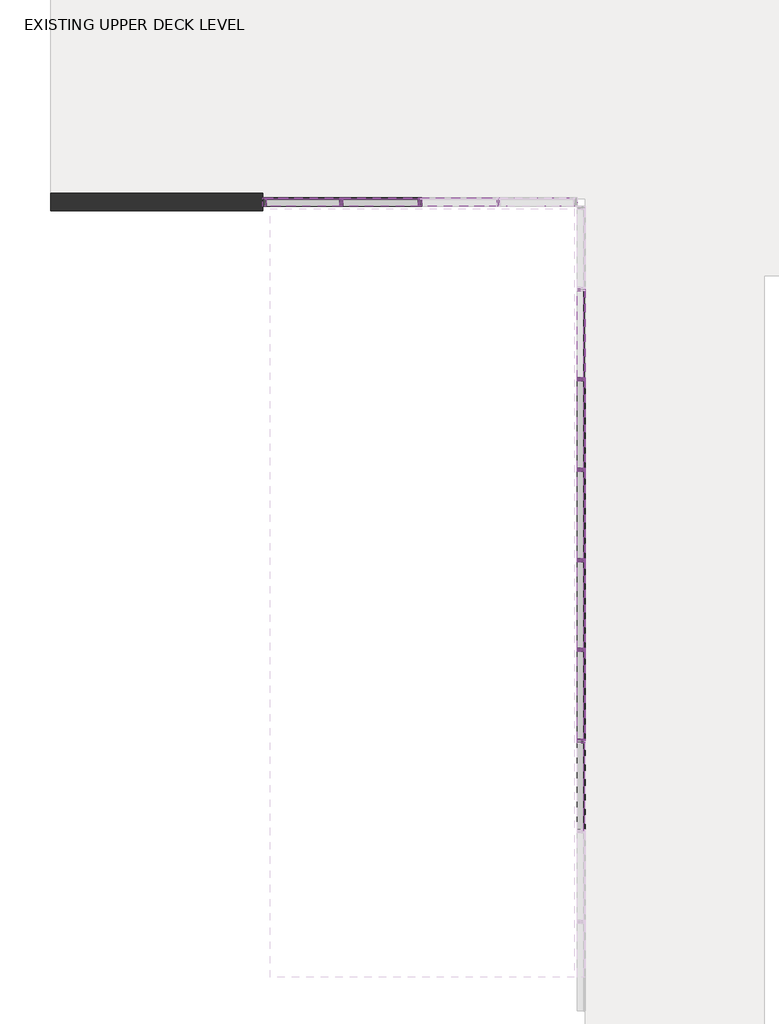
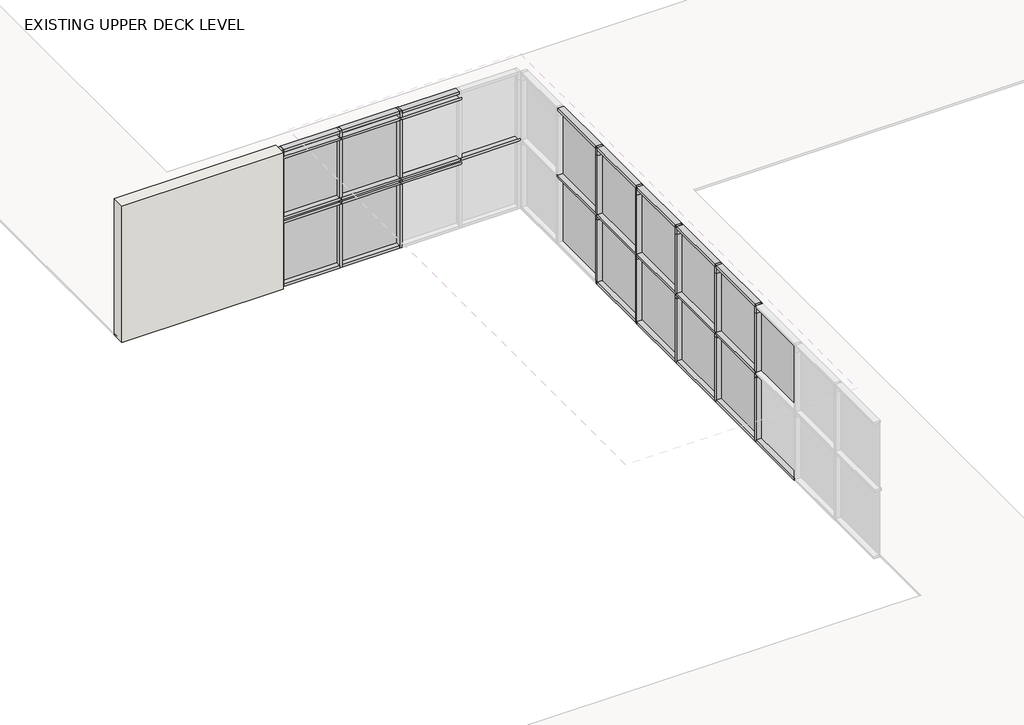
# One storey, part 2 of 3: 62 members, 19 plates, 1 wall.
"""IFC4 building model written with IfcOpenShell, lengths in millimetres."""

from ifc_helpers import new_model, si_unit, frame, origin, place, context, project, spatial, polyline, outline, extrude, transform, mapped, element, save
from components import rectangular_mullion_3bbbedf9, rectangular_mullion_5c729091, rectangular_mullion_7315190d, rectangular_mullion_10d2db1b, rectangular_mullion_fbd2204e, rectangular_mullion_58844fd5, rectangular_mullion_fd3b6dd5, rectangular_mullion_40eadc30, rectangular_mullion_0e282d8c, rectangular_mullion_f8c7f91d, rectangular_mullion_4961243a, rectangular_mullion_386c02e4, rectangular_mullion_4e3339b7, rectangular_mullion_32e07c27, rectangular_mullion_10cdd00b, rectangular_mullion_634541af, rectangular_mullion_af807cf6, rectangular_mullion_93630891, rectangular_mullion_1a987de4, rectangular_mullion_b99a3797, rectangular_mullion_2aeec064, rectangular_mullion_042afdd0, rectangular_mullion_1bf71cb2, rectangular_mullion_55faee5e, rectangular_mullion_3d1d8518, rectangular_mullion_b1836c23, rectangular_mullion_f3aea93a, plate_297d9759, plate_a72b84bc, plate_9dcbc979, plate_0ceb05f0, plate_08a7df39, plate_14ea7fdc, plate_30067b60, plate_68830c21, plate_a2bcb05a, plate_dc7cb12e, plate_15c53d00, plate_fc9a9919, plate_e4f452af, plate_426640ee

model = new_model("IFC4")

# Units and contexts
model_context = context("Model", 3, world=origin())
ifc_project = project(units=[si_unit("LENGTHUNIT", "METRE", prefix="MILLI")], contexts=[model_context])

# Site, building, storey
site = spatial("IfcSite", under=ifc_project)
building = spatial("IfcBuilding", under=site)
storey = spatial("IfcBuildingStorey", under=building, Name="EXISTING UPPER DECK LEVEL", Elevation=294830.5)

# Members
placement = place(None, origin())
rectangular_mullion_shape = rectangular_mullion_3bbbedf9(model_context)
element("IfcMember", 1, ObjectType="Rectangular Mullion : Kawneer-TRIFAB_VG_450_BACK_SB_Vertical", at=placement, inside=storey, context=model_context, shape_type="MappedRepresentation", body=[
    mapped(rectangular_mullion_shape, transform((26931.5406077, 211961.2591288, 294830.5), x_axis=(0.0, -1.0, 0.0), y_axis=(-1.0, 0.0, 0.0), z_axis=(0.0, 0.0, -1.0))),
])
element("IfcMember", 2, ObjectType="Rectangular Mullion : Kawneer-TRIFAB_VG_450_BACK_SB_Vertical", at=placement, inside=storey, context=model_context, shape_type="MappedRepresentation", body=[
    mapped(rectangular_mullion_shape, transform((26931.5406077, 213205.3032213, 294830.5), x_axis=(0.0, -1.0, 0.0), y_axis=(-1.0, 0.0, 0.0), z_axis=(0.0, 0.0, -1.0))),
])
element("IfcMember", 3, ObjectType="Rectangular Mullion : Kawneer-TRIFAB_VG_450_BACK_SB_Vertical", at=placement, inside=storey, context=model_context, shape_type="MappedRepresentation", body=[
    mapped(rectangular_mullion_shape, transform((26931.5406077, 214425.0591288, 294830.5), x_axis=(0.0, -1.0, 0.0), y_axis=(-1.0, 0.0, 0.0), z_axis=(0.0, 0.0, -1.0))),
])
element("IfcMember", 4, ObjectType="Rectangular Mullion : Kawneer-TRIFAB_VG_450_BACK_SB_Vertical", at=placement, inside=storey, context=model_context, shape_type="MappedRepresentation", body=[
    mapped(rectangular_mullion_shape, transform((26931.5406077, 216888.8591288, 294830.5), x_axis=(0.0, -1.0, 0.0), y_axis=(-1.0, 0.0, 0.0), z_axis=(0.0, 0.0, -1.0))),
])
element("IfcMember", 5, ObjectType="Rectangular Mullion : Kawneer-TRIFAB_VG_450_BACK_SB_Vertical", at=placement, inside=storey, context=model_context, shape_type="MappedRepresentation", body=[
    mapped(rectangular_mullion_shape, transform((26931.5406077, 215656.9591288, 294830.5), x_axis=(0.0, -1.0, 0.0), y_axis=(-1.0, 0.0, 0.0), z_axis=(0.0, 0.0, -1.0))),
])
rectangular_mullion_2_shape = rectangular_mullion_5c729091(model_context)
element("IfcMember", 6, ObjectType="Rectangular Mullion : Kawneer-TRIFAB_VG_450_BACK_SB_Head", at=placement, inside=storey, context=model_context, shape_type="MappedRepresentation", body=[
    mapped(rectangular_mullion_2_shape, transform((26931.5406077, 216911.0841288, 297421.3), x_axis=(0.0, 0.0, 1.0), y_axis=(-1.0, 0.0, 0.0), z_axis=(0.0, -1.0, 0.0))),
])
element("IfcMember", 7, ObjectType="Rectangular Mullion : Kawneer-TRIFAB_VG_450_BACK_SB_Head", at=placement, inside=storey, context=model_context, shape_type="MappedRepresentation", body=[
    mapped(rectangular_mullion_2_shape, transform((26931.5406077, 214447.2841288, 297421.3), x_axis=(0.0, 0.0, 1.0), y_axis=(-1.0, 0.0, 0.0), z_axis=(0.0, -1.0, 0.0))),
])
element("IfcMember", 8, ObjectType="Rectangular Mullion : Kawneer-TRIFAB_VG_450_BACK_SB_Head", at=placement, inside=storey, context=model_context, shape_type="MappedRepresentation", body=[
    mapped(rectangular_mullion_2_shape, transform((26931.5406077, 215679.1841288, 297421.3), x_axis=(0.0, 0.0, 1.0), y_axis=(-1.0, 0.0, 0.0), z_axis=(0.0, -1.0, 0.0))),
])
rectangular_mullion_3_shape = rectangular_mullion_7315190d(model_context)
element("IfcMember", 9, ObjectType="Rectangular Mullion : Kawneer-TRIFAB_VG_450_BACK_SB_Sill", at=placement, inside=storey, context=model_context, shape_type="MappedRepresentation", body=[
    mapped(rectangular_mullion_3_shape, transform((26931.5406077, 211939.0341288, 294830.5), x_axis=(0.0, 0.0, -1.0), y_axis=(-1.0, 0.0, 0.0), z_axis=(0.0, 1.0, 0.0))),
])
element("IfcMember", 10, ObjectType="Rectangular Mullion : Kawneer-TRIFAB_VG_450_BACK_SB_Sill", at=placement, inside=storey, context=model_context, shape_type="MappedRepresentation", body=[
    mapped(rectangular_mullion_3_shape, transform((26931.5406077, 216866.6341288, 294830.5), x_axis=(0.0, 0.0, -1.0), y_axis=(-1.0, 0.0, 0.0), z_axis=(0.0, 1.0, 0.0))),
])
element("IfcMember", 11, ObjectType="Rectangular Mullion : Kawneer-TRIFAB_VG_450_BACK_SB_Sill", at=placement, inside=storey, context=model_context, shape_type="MappedRepresentation", body=[
    mapped(rectangular_mullion_3_shape, transform((26931.5406077, 215634.7341288, 294830.5), x_axis=(0.0, 0.0, -1.0), y_axis=(-1.0, 0.0, 0.0), z_axis=(0.0, 1.0, 0.0))),
])
rectangular_mullion_4_shape = rectangular_mullion_10d2db1b(model_context)
element("IfcMember", 12, ObjectType="Rectangular Mullion : Kawneer-TRIFAB_VG_450_BACK_SB_Vertical", at=placement, inside=storey, context=model_context, shape_type="MappedRepresentation", body=[
    mapped(rectangular_mullion_4_shape, transform((26931.5406077, 211961.2591288, 297268.9), x_axis=(0.0, -1.0, 0.0), y_axis=(-1.0, 0.0, 0.0), z_axis=(0.0, 0.0, -1.0))),
])
element("IfcMember", 13, ObjectType="Rectangular Mullion : Kawneer-TRIFAB_VG_450_BACK_SB_Vertical", at=placement, inside=storey, context=model_context, shape_type="MappedRepresentation", body=[
    mapped(rectangular_mullion_4_shape, transform((26931.5406077, 213205.3032213, 297268.9), x_axis=(0.0, -1.0, 0.0), y_axis=(-1.0, 0.0, 0.0), z_axis=(0.0, 0.0, -1.0))),
])
element("IfcMember", 14, ObjectType="Rectangular Mullion : Kawneer-TRIFAB_VG_450_BACK_SB_Vertical", at=placement, inside=storey, context=model_context, shape_type="MappedRepresentation", body=[
    mapped(rectangular_mullion_4_shape, transform((26931.5406077, 214425.0591288, 297268.9), x_axis=(0.0, -1.0, 0.0), y_axis=(-1.0, 0.0, 0.0), z_axis=(0.0, 0.0, -1.0))),
])
element("IfcMember", 15, ObjectType="Rectangular Mullion : Kawneer-TRIFAB_VG_450_BACK_SB_Vertical", at=placement, inside=storey, context=model_context, shape_type="MappedRepresentation", body=[
    mapped(rectangular_mullion_4_shape, transform((26931.5406077, 216888.8591288, 297268.9), x_axis=(0.0, -1.0, 0.0), y_axis=(-1.0, 0.0, 0.0), z_axis=(0.0, 0.0, -1.0))),
])
element("IfcMember", 16, ObjectType="Rectangular Mullion : Kawneer-TRIFAB_VG_450_BACK_SB_Vertical", at=placement, inside=storey, context=model_context, shape_type="MappedRepresentation", body=[
    mapped(rectangular_mullion_4_shape, transform((26931.5406077, 215656.9591288, 297268.9), x_axis=(0.0, -1.0, 0.0), y_axis=(-1.0, 0.0, 0.0), z_axis=(0.0, 0.0, -1.0))),
])
rectangular_mullion_5_shape = rectangular_mullion_fbd2204e(model_context)
element("IfcMember", 17, ObjectType="Rectangular Mullion : Kawneer-TRIFAB_VG_450_BACK_SB_Jamb R", at=placement, inside=storey, context=model_context, shape_type="MappedRepresentation", body=[
    mapped(rectangular_mullion_5_shape, transform((22551.5654546, 219346.65176, 294830.5), x_axis=(-1.0, 0.0, 0.0), y_axis=(0.0, 1.0, 0.0), z_axis=(0.0, 0.0, -1.0))),
])
rectangular_mullion_6_shape = rectangular_mullion_58844fd5(model_context)
element("IfcMember", 18, ObjectType="Rectangular Mullion : Kawneer-TRIFAB_VG_450_BACK_SB_Vertical", at=placement, inside=storey, context=model_context, shape_type="MappedRepresentation", body=[
    mapped(rectangular_mullion_6_shape, transform((24693.1342812, 219346.65176, 294830.5), x_axis=(-1.0, 0.0, 0.0), y_axis=(0.0, 1.0, 0.0), z_axis=(0.0, 0.0, -1.0))),
])
element("IfcMember", 19, ObjectType="Rectangular Mullion : Kawneer-TRIFAB_VG_450_BACK_SB_Vertical", at=placement, inside=storey, context=model_context, shape_type="MappedRepresentation", body=[
    mapped(rectangular_mullion_6_shape, transform((23622.3498679, 219346.65176, 294830.5), x_axis=(-1.0, 0.0, 0.0), y_axis=(0.0, 1.0, 0.0), z_axis=(0.0, 0.0, -1.0))),
])
rectangular_mullion_7_shape = rectangular_mullion_fd3b6dd5(model_context)
element("IfcMember", 20, ObjectType="Rectangular Mullion : Kawneer-TRIFAB_VG_450_BACK_SB_Vertical", at=placement, inside=storey, context=model_context, shape_type="MappedRepresentation", body=[
    mapped(rectangular_mullion_7_shape, transform((26931.5406077, 211961.2591288, 296049.7), x_axis=(0.0, -1.0, 0.0), y_axis=(-1.0, 0.0, 0.0), z_axis=(0.0, 0.0, -1.0))),
])
element("IfcMember", 21, ObjectType="Rectangular Mullion : Kawneer-TRIFAB_VG_450_BACK_SB_Vertical", at=placement, inside=storey, context=model_context, shape_type="MappedRepresentation", body=[
    mapped(rectangular_mullion_7_shape, transform((26931.5406077, 213205.3032213, 296049.7), x_axis=(0.0, -1.0, 0.0), y_axis=(-1.0, 0.0, 0.0), z_axis=(0.0, 0.0, -1.0))),
])
element("IfcMember", 22, ObjectType="Rectangular Mullion : Kawneer-TRIFAB_VG_450_BACK_SB_Vertical", at=placement, inside=storey, context=model_context, shape_type="MappedRepresentation", body=[
    mapped(rectangular_mullion_7_shape, transform((26931.5406077, 214425.0591288, 296049.7), x_axis=(0.0, -1.0, 0.0), y_axis=(-1.0, 0.0, 0.0), z_axis=(0.0, 0.0, -1.0))),
])
element("IfcMember", 23, ObjectType="Rectangular Mullion : Kawneer-TRIFAB_VG_450_BACK_SB_Vertical", at=placement, inside=storey, context=model_context, shape_type="MappedRepresentation", body=[
    mapped(rectangular_mullion_7_shape, transform((26931.5406077, 216888.8591288, 296049.7), x_axis=(0.0, -1.0, 0.0), y_axis=(-1.0, 0.0, 0.0), z_axis=(0.0, 0.0, -1.0))),
])
element("IfcMember", 24, ObjectType="Rectangular Mullion : Kawneer-TRIFAB_VG_450_BACK_SB_Vertical", at=placement, inside=storey, context=model_context, shape_type="MappedRepresentation", body=[
    mapped(rectangular_mullion_7_shape, transform((26931.5406077, 215656.9591288, 296049.7), x_axis=(0.0, -1.0, 0.0), y_axis=(-1.0, 0.0, 0.0), z_axis=(0.0, 0.0, -1.0))),
])
rectangular_mullion_8_shape = rectangular_mullion_40eadc30(model_context)
element("IfcMember", 25, ObjectType="Rectangular Mullion : Kawneer-TRIFAB_VG_450_BACK_SB_Vertical", at=placement, inside=storey, context=model_context, shape_type="MappedRepresentation", body=[
    mapped(rectangular_mullion_8_shape, transform((26931.5406077, 211961.2591288, 296152.4594027), x_axis=(0.0, -1.0, 0.0), y_axis=(-1.0, 0.0, 0.0), z_axis=(0.0, 0.0, -1.0))),
])
element("IfcMember", 26, ObjectType="Rectangular Mullion : Kawneer-TRIFAB_VG_450_BACK_SB_Vertical", at=placement, inside=storey, context=model_context, shape_type="MappedRepresentation", body=[
    mapped(rectangular_mullion_8_shape, transform((26931.5406077, 213205.3032213, 296152.4594027), x_axis=(0.0, -1.0, 0.0), y_axis=(-1.0, 0.0, 0.0), z_axis=(0.0, 0.0, -1.0))),
])
element("IfcMember", 27, ObjectType="Rectangular Mullion : Kawneer-TRIFAB_VG_450_BACK_SB_Vertical", at=placement, inside=storey, context=model_context, shape_type="MappedRepresentation", body=[
    mapped(rectangular_mullion_8_shape, transform((26931.5406077, 214425.0591288, 296152.4594027), x_axis=(0.0, -1.0, 0.0), y_axis=(-1.0, 0.0, 0.0), z_axis=(0.0, 0.0, -1.0))),
])
element("IfcMember", 28, ObjectType="Rectangular Mullion : Kawneer-TRIFAB_VG_450_BACK_SB_Vertical", at=placement, inside=storey, context=model_context, shape_type="MappedRepresentation", body=[
    mapped(rectangular_mullion_8_shape, transform((26931.5406077, 216888.8591288, 296152.4594027), x_axis=(0.0, -1.0, 0.0), y_axis=(-1.0, 0.0, 0.0), z_axis=(0.0, 0.0, -1.0))),
])
element("IfcMember", 29, ObjectType="Rectangular Mullion : Kawneer-TRIFAB_VG_450_BACK_SB_Vertical", at=placement, inside=storey, context=model_context, shape_type="MappedRepresentation", body=[
    mapped(rectangular_mullion_8_shape, transform((26931.5406077, 215656.9591288, 296152.4594027), x_axis=(0.0, -1.0, 0.0), y_axis=(-1.0, 0.0, 0.0), z_axis=(0.0, 0.0, -1.0))),
])
rectangular_mullion_9_shape = rectangular_mullion_0e282d8c(model_context)
element("IfcMember", 30, ObjectType="Rectangular Mullion : Kawneer-TRIFAB_VG_450_BACK_SB_Horizontal", at=placement, inside=storey, context=model_context, shape_type="MappedRepresentation", body=[
    mapped(rectangular_mullion_9_shape, transform((26931.5406077, 216888.8591288, 296125.9), x_axis=(0.0, 0.0, 1.0), y_axis=(-1.0, 0.0, 0.0), z_axis=(0.0, -1.0, 0.0))),
])
element("IfcMember", 31, ObjectType="Rectangular Mullion : Kawneer-TRIFAB_VG_450_BACK_SB_Horizontal", at=placement, inside=storey, context=model_context, shape_type="MappedRepresentation", body=[
    mapped(rectangular_mullion_9_shape, transform((26931.5406077, 215656.9591288, 296125.9), x_axis=(0.0, 0.0, 1.0), y_axis=(-1.0, 0.0, 0.0), z_axis=(0.0, -1.0, 0.0))),
])
element("IfcMember", 32, ObjectType="Rectangular Mullion : Kawneer-TRIFAB_VG_450_BACK_SB_Horizontal", at=placement, inside=storey, context=model_context, shape_type="MappedRepresentation", body=[
    mapped(rectangular_mullion_9_shape, transform((26931.5406077, 214425.0591288, 296125.9), x_axis=(0.0, 0.0, 1.0), y_axis=(-1.0, 0.0, 0.0), z_axis=(0.0, -1.0, 0.0))),
])
rectangular_mullion_10_shape = rectangular_mullion_f8c7f91d(model_context)
element("IfcMember", 33, ObjectType="Rectangular Mullion : Kawneer-TRIFAB_VG_450_BACK_SB_Head", at=placement, inside=storey, context=model_context, shape_type="MappedRepresentation", body=[
    mapped(rectangular_mullion_10_shape, transform((26931.5406077, 211983.4841288, 297421.3), x_axis=(0.0, 0.0, 1.0), y_axis=(-1.0, 0.0, 0.0), z_axis=(0.0, -1.0, 0.0))),
])
rectangular_mullion_11_shape = rectangular_mullion_4961243a(model_context)
element("IfcMember", 34, ObjectType="Rectangular Mullion : Kawneer-TRIFAB_VG_450_BACK_SB_Head", at=placement, inside=storey, context=model_context, shape_type="MappedRepresentation", body=[
    mapped(rectangular_mullion_11_shape, transform((26931.5406077, 213227.5282213, 297421.3), x_axis=(0.0, 0.0, 1.0), y_axis=(-1.0, 0.0, 0.0), z_axis=(0.0, -1.0, 0.0))),
])
rectangular_mullion_12_shape = rectangular_mullion_386c02e4(model_context)
element("IfcMember", 35, ObjectType="Rectangular Mullion : Kawneer-TRIFAB_VG_450_BACK_SB_Sill", at=placement, inside=storey, context=model_context, shape_type="MappedRepresentation", body=[
    mapped(rectangular_mullion_12_shape, transform((26931.5406077, 214402.8341288, 294830.5), x_axis=(0.0, 0.0, -1.0), y_axis=(-1.0, 0.0, 0.0), z_axis=(0.0, 1.0, 0.0))),
])
rectangular_mullion_13_shape = rectangular_mullion_4e3339b7(model_context)
element("IfcMember", 36, ObjectType="Rectangular Mullion : Kawneer-TRIFAB_VG_450_BACK_SB_Sill", at=placement, inside=storey, context=model_context, shape_type="MappedRepresentation", body=[
    mapped(rectangular_mullion_13_shape, transform((26931.5406077, 213183.0782213, 294830.5), x_axis=(0.0, 0.0, -1.0), y_axis=(-1.0, 0.0, 0.0), z_axis=(0.0, 1.0, 0.0))),
])
rectangular_mullion_14_shape = rectangular_mullion_32e07c27(model_context)
element("IfcMember", 37, ObjectType="Rectangular Mullion : Kawneer-TRIFAB_VG_450_BACK_SB_Horizontal", at=placement, inside=storey, context=model_context, shape_type="MappedRepresentation", body=[
    mapped(rectangular_mullion_14_shape, transform((26931.5406077, 213205.3032213, 296125.9), x_axis=(0.0, 0.0, 1.0), y_axis=(-1.0, 0.0, 0.0), z_axis=(0.0, -1.0, 0.0))),
])
rectangular_mullion_15_shape = rectangular_mullion_10cdd00b(model_context)
element("IfcMember", 38, ObjectType="Rectangular Mullion : Kawneer-TRIFAB_VG_450_BACK_SB_Horizontal", at=placement, inside=storey, context=model_context, shape_type="MappedRepresentation", body=[
    mapped(rectangular_mullion_15_shape, transform((26931.5406077, 211961.2591288, 296125.9), x_axis=(0.0, 0.0, 1.0), y_axis=(-1.0, 0.0, 0.0), z_axis=(0.0, -1.0, 0.0))),
])
rectangular_mullion_16_shape = rectangular_mullion_634541af(model_context)
element("IfcMember", 39, ObjectType="Rectangular Mullion : Kawneer-TRIFAB_VG_450_BACK_SB_Vertical", at=placement, inside=storey, context=model_context, shape_type="MappedRepresentation", body=[
    mapped(rectangular_mullion_16_shape, transform((24693.1342812, 219346.65176, 296076.2594027), x_axis=(-1.0, 0.0, 0.0), y_axis=(0.0, 1.0, 0.0), z_axis=(0.0, 0.0, -1.0))),
])
element("IfcMember", 40, ObjectType="Rectangular Mullion : Kawneer-TRIFAB_VG_450_BACK_SB_Vertical", at=placement, inside=storey, context=model_context, shape_type="MappedRepresentation", body=[
    mapped(rectangular_mullion_16_shape, transform((23622.3498679, 219346.65176, 296076.2594027), x_axis=(-1.0, 0.0, 0.0), y_axis=(0.0, 1.0, 0.0), z_axis=(0.0, 0.0, -1.0))),
])
rectangular_mullion_17_shape = rectangular_mullion_af807cf6(model_context)
element("IfcMember", 41, ObjectType="Rectangular Mullion : Kawneer-TRIFAB_VG_450_BACK_SB_Vertical", at=placement, inside=storey, context=model_context, shape_type="MappedRepresentation", body=[
    mapped(rectangular_mullion_17_shape, transform((24693.1342812, 219346.65176, 296152.4594027), x_axis=(-1.0, 0.0, 0.0), y_axis=(0.0, 1.0, 0.0), z_axis=(0.0, 0.0, -1.0))),
])
element("IfcMember", 42, ObjectType="Rectangular Mullion : Kawneer-TRIFAB_VG_450_BACK_SB_Vertical", at=placement, inside=storey, context=model_context, shape_type="MappedRepresentation", body=[
    mapped(rectangular_mullion_17_shape, transform((23622.3498679, 219346.65176, 296152.4594027), x_axis=(-1.0, 0.0, 0.0), y_axis=(0.0, 1.0, 0.0), z_axis=(0.0, 0.0, -1.0))),
])
rectangular_mullion_18_shape = rectangular_mullion_93630891(model_context)
element("IfcMember", 43, ObjectType="Rectangular Mullion : Kawneer-TRIFAB_VG_450_BACK_SB_Vertical", at=placement, inside=storey, context=model_context, shape_type="MappedRepresentation", body=[
    mapped(rectangular_mullion_18_shape, transform((24693.1342812, 219346.65176, 297295.4594027), x_axis=(-1.0, 0.0, 0.0), y_axis=(0.0, 1.0, 0.0), z_axis=(0.0, 0.0, -1.0))),
])
element("IfcMember", 44, ObjectType="Rectangular Mullion : Kawneer-TRIFAB_VG_450_BACK_SB_Vertical", at=placement, inside=storey, context=model_context, shape_type="MappedRepresentation", body=[
    mapped(rectangular_mullion_18_shape, transform((23622.3498679, 219346.65176, 297295.4594027), x_axis=(-1.0, 0.0, 0.0), y_axis=(0.0, 1.0, 0.0), z_axis=(0.0, 0.0, -1.0))),
])
rectangular_mullion_19_shape = rectangular_mullion_1a987de4(model_context)
element("IfcMember", 45, ObjectType="Rectangular Mullion : Kawneer-TRIFAB_VG_450_BACK_SB_Jamb R", at=placement, inside=storey, context=model_context, shape_type="MappedRepresentation", body=[
    mapped(rectangular_mullion_19_shape, transform((22551.5654546, 219346.65176, 296076.2594027), x_axis=(-1.0, 0.0, 0.0), y_axis=(0.0, 1.0, 0.0), z_axis=(0.0, 0.0, -1.0))),
])
rectangular_mullion_20_shape = rectangular_mullion_b99a3797(model_context)
element("IfcMember", 46, ObjectType="Rectangular Mullion : Kawneer-TRIFAB_VG_450_BACK_SB_Jamb R", at=placement, inside=storey, context=model_context, shape_type="MappedRepresentation", body=[
    mapped(rectangular_mullion_20_shape, transform((22551.5654546, 219346.65176, 297295.4594027), x_axis=(-1.0, 0.0, 0.0), y_axis=(0.0, 1.0, 0.0), z_axis=(0.0, 0.0, -1.0))),
])
rectangular_mullion_21_shape = rectangular_mullion_2aeec064(model_context)
element("IfcMember", 47, ObjectType="Rectangular Mullion : Kawneer-TRIFAB_VG_450_BACK_SB_Jamb R", at=placement, inside=storey, context=model_context, shape_type="MappedRepresentation", body=[
    mapped(rectangular_mullion_21_shape, transform((22551.5654546, 219346.65176, 296152.4594027), x_axis=(-1.0, 0.0, 0.0), y_axis=(0.0, 1.0, 0.0), z_axis=(0.0, 0.0, -1.0))),
])
rectangular_mullion_22_shape = rectangular_mullion_042afdd0(model_context)
element("IfcMember", 48, ObjectType="Rectangular Mullion : Kawneer-TRIFAB_VG_450_BACK_SB_Head", at=placement, inside=storey, context=model_context, shape_type="MappedRepresentation", body=[
    mapped(rectangular_mullion_22_shape, transform((22596.0154546, 219346.65176, 297421.3), x_axis=(0.0, 0.0, 1.0), y_axis=(0.0, 1.0, 0.0), z_axis=(-1.0, 0.0, 0.0))),
])
rectangular_mullion_23_shape = rectangular_mullion_1bf71cb2(model_context)
element("IfcMember", 49, ObjectType="Rectangular Mullion : Kawneer-TRIFAB_VG_450_BACK_SB_Horizontal", at=placement, inside=storey, context=model_context, shape_type="MappedRepresentation", body=[
    mapped(rectangular_mullion_23_shape, transform((25763.9186944, 219346.65176, 296125.9), x_axis=(0.0, 0.0, 1.0), y_axis=(0.0, 1.0, 0.0), z_axis=(-1.0, 0.0, 0.0))),
])
rectangular_mullion_24_shape = rectangular_mullion_55faee5e(model_context)
element("IfcMember", 50, ObjectType="Rectangular Mullion : Kawneer-TRIFAB_VG_450_BACK_SB_Sill", at=placement, inside=storey, context=model_context, shape_type="MappedRepresentation", body=[
    mapped(rectangular_mullion_24_shape, transform((24670.9092812, 219346.65176, 294830.5), x_axis=(0.0, 0.0, -1.0), y_axis=(0.0, 1.0, 0.0), z_axis=(1.0, 0.0, 0.0))),
])
rectangular_mullion_25_shape = rectangular_mullion_3d1d8518(model_context)
element("IfcMember", 51, ObjectType="Rectangular Mullion : Kawneer-TRIFAB_VG_450_BACK_SB_Head", at=placement, inside=storey, context=model_context, shape_type="MappedRepresentation", body=[
    mapped(rectangular_mullion_25_shape, transform((24715.3592812, 219346.65176, 297421.3), x_axis=(0.0, 0.0, 1.0), y_axis=(0.0, 1.0, 0.0), z_axis=(-1.0, 0.0, 0.0))),
])
element("IfcMember", 52, ObjectType="Rectangular Mullion : Kawneer-TRIFAB_VG_450_BACK_SB_Head", at=placement, inside=storey, context=model_context, shape_type="MappedRepresentation", body=[
    mapped(rectangular_mullion_25_shape, transform((23644.5748679, 219346.65176, 297421.3), x_axis=(0.0, 0.0, 1.0), y_axis=(0.0, 1.0, 0.0), z_axis=(-1.0, 0.0, 0.0))),
])
element("IfcMember", 53, ObjectType="Rectangular Mullion : Kawneer-TRIFAB_VG_450_BACK_SB_Horizontal", at=placement, inside=storey, context=model_context, shape_type="MappedRepresentation", body=[
    mapped(rectangular_mullion_23_shape, transform((24693.1342812, 219346.65176, 296125.9), x_axis=(0.0, 0.0, 1.0), y_axis=(0.0, 1.0, 0.0), z_axis=(-1.0, 0.0, 0.0))),
])
element("IfcMember", 54, ObjectType="Rectangular Mullion : Kawneer-TRIFAB_VG_450_BACK_SB_Horizontal", at=placement, inside=storey, context=model_context, shape_type="MappedRepresentation", body=[
    mapped(rectangular_mullion_23_shape, transform((23622.3498679, 219346.65176, 296125.9), x_axis=(0.0, 0.0, 1.0), y_axis=(0.0, 1.0, 0.0), z_axis=(-1.0, 0.0, 0.0))),
])
element("IfcMember", 55, ObjectType="Rectangular Mullion : Kawneer-TRIFAB_VG_450_BACK_SB_Horizontal", at=placement, inside=storey, context=model_context, shape_type="MappedRepresentation", body=[
    mapped(rectangular_mullion_23_shape, transform((23622.3498679, 219346.65176, 296049.7), x_axis=(0.0, 0.0, 1.0), y_axis=(0.0, 1.0, 0.0), z_axis=(-1.0, 0.0, 0.0))),
])
element("IfcMember", 56, ObjectType="Rectangular Mullion : Kawneer-TRIFAB_VG_450_BACK_SB_Horizontal", at=placement, inside=storey, context=model_context, shape_type="MappedRepresentation", body=[
    mapped(rectangular_mullion_23_shape, transform((23622.3498679, 219346.65176, 297268.9), x_axis=(0.0, 0.0, 1.0), y_axis=(0.0, 1.0, 0.0), z_axis=(-1.0, 0.0, 0.0))),
])
rectangular_mullion_26_shape = rectangular_mullion_b1836c23(model_context)
element("IfcMember", 57, ObjectType="Rectangular Mullion : Kawneer-TRIFAB_VG_450_BACK_SB_Horizontal", at=placement, inside=storey, context=model_context, shape_type="MappedRepresentation", body=[
    mapped(rectangular_mullion_26_shape, transform((24693.1342812, 219346.65176, 296049.7), x_axis=(0.0, 0.0, 1.0), y_axis=(0.0, 1.0, 0.0), z_axis=(-1.0, 0.0, 0.0))),
])
element("IfcMember", 58, ObjectType="Rectangular Mullion : Kawneer-TRIFAB_VG_450_BACK_SB_Horizontal", at=placement, inside=storey, context=model_context, shape_type="MappedRepresentation", body=[
    mapped(rectangular_mullion_26_shape, transform((24693.1342812, 219346.65176, 297268.9), x_axis=(0.0, 0.0, 1.0), y_axis=(0.0, 1.0, 0.0), z_axis=(-1.0, 0.0, 0.0))),
])
rectangular_mullion_27_shape = rectangular_mullion_f3aea93a(model_context)
element("IfcMember", 59, ObjectType="Rectangular Mullion : Kawneer-TRIFAB_VG_450_BACK_SB_Sill", at=placement, inside=storey, context=model_context, shape_type="MappedRepresentation", body=[
    mapped(rectangular_mullion_27_shape, transform((23600.1248679, 219346.65176, 294830.5), x_axis=(0.0, 0.0, -1.0), y_axis=(0.0, 1.0, 0.0), z_axis=(1.0, 0.0, 0.0))),
])
element("IfcMember", 60, ObjectType="Rectangular Mullion : Kawneer-TRIFAB_VG_450_BACK_SB_Horizontal", at=placement, inside=storey, context=model_context, shape_type="MappedRepresentation", body=[
    mapped(rectangular_mullion_23_shape, transform((22551.5654546, 219346.65176, 296049.7), x_axis=(0.0, 0.0, 1.0), y_axis=(0.0, 1.0, 0.0), z_axis=(-1.0, 0.0, 0.0))),
])
element("IfcMember", 61, ObjectType="Rectangular Mullion : Kawneer-TRIFAB_VG_450_BACK_SB_Horizontal", at=placement, inside=storey, context=model_context, shape_type="MappedRepresentation", body=[
    mapped(rectangular_mullion_23_shape, transform((22551.5654546, 219346.65176, 296125.9), x_axis=(0.0, 0.0, 1.0), y_axis=(0.0, 1.0, 0.0), z_axis=(-1.0, 0.0, 0.0))),
])
element("IfcMember", 62, ObjectType="Rectangular Mullion : Kawneer-TRIFAB_VG_450_BACK_SB_Horizontal", at=placement, inside=storey, context=model_context, shape_type="MappedRepresentation", body=[
    mapped(rectangular_mullion_23_shape, transform((22551.5654546, 219346.65176, 297268.9), x_axis=(0.0, 0.0, 1.0), y_axis=(0.0, 1.0, 0.0), z_axis=(-1.0, 0.0, 0.0))),
])

# Plates
plate_shape = plate_297d9759(model_context)
element("IfcPlate", 63, ObjectType="System Panel : 1/4\" Glass", at=placement, inside=storey, context=model_context, shape_type="MappedRepresentation", body=[
    mapped(plate_shape, transform((26931.5406077, 216272.910014, 294865.425), x_axis=(0.0, -1.0, 0.0), y_axis=(1.0, 0.0, 0.0), z_axis=(0.0, 0.0, 1.0))),
])
element("IfcPlate", 64, ObjectType="System Panel : 1/4\" Glass", at=placement, inside=storey, context=model_context, shape_type="MappedRepresentation", body=[
    mapped(plate_shape, transform((26931.5406077, 217504.810014, 294865.425), x_axis=(0.0, -1.0, 0.0), y_axis=(1.0, 0.0, 0.0), z_axis=(0.0, 0.0, 1.0))),
])
element("IfcPlate", 65, ObjectType="System Panel : 1/4\" Glass", at=placement, inside=storey, context=model_context, shape_type="MappedRepresentation", body=[
    mapped(plate_shape, transform((26931.5406077, 215041.010014, 294865.425), x_axis=(0.0, -1.0, 0.0), y_axis=(1.0, 0.0, 0.0), z_axis=(0.0, 0.0, 1.0))),
])
plate_2_shape = plate_a72b84bc(model_context)
element("IfcPlate", 66, ObjectType="System Panel : 1/4\" Glass", at=placement, inside=storey, context=model_context, shape_type="MappedRepresentation", body=[
    mapped(plate_2_shape, transform((26931.5406077, 217504.810014, 296152.4594027), x_axis=(0.0, -1.0, 0.0), y_axis=(1.0, 0.0, 0.0), z_axis=(0.0, 0.0, 1.0))),
])
element("IfcPlate", 67, ObjectType="System Panel : 1/4\" Glass", at=placement, inside=storey, context=model_context, shape_type="MappedRepresentation", body=[
    mapped(plate_2_shape, transform((26931.5406077, 216272.910014, 296152.4594027), x_axis=(0.0, -1.0, 0.0), y_axis=(1.0, 0.0, 0.0), z_axis=(0.0, 0.0, 1.0))),
])
element("IfcPlate", 68, ObjectType="System Panel : 1/4\" Glass", at=placement, inside=storey, context=model_context, shape_type="MappedRepresentation", body=[
    mapped(plate_2_shape, transform((26931.5406077, 215041.010014, 296152.4594027), x_axis=(0.0, -1.0, 0.0), y_axis=(1.0, 0.0, 0.0), z_axis=(0.0, 0.0, 1.0))),
])
element("IfcPlate", 69, ObjectType="System Panel : 1/4\" Glass", at=placement, inside=storey, context=model_context, shape_type="MappedRepresentation", body=[
    mapped(plate_2_shape, transform((26931.5406077, 211345.310014, 296152.4594027), x_axis=(0.0, -1.0, 0.0), y_axis=(1.0, 0.0, 0.0), z_axis=(0.0, 0.0, 1.0))),
])
plate_3_shape = plate_9dcbc979(model_context)
element("IfcPlate", 70, ObjectType="System Panel : 1/4\" Glass", at=placement, inside=storey, context=model_context, shape_type="MappedRepresentation", body=[
    mapped(plate_3_shape, transform((26931.5406077, 212583.2820603, 294865.425), x_axis=(0.0, -1.0, 0.0), y_axis=(1.0, 0.0, 0.0), z_axis=(0.0, 0.0, 1.0))),
])
plate_4_shape = plate_0ceb05f0(model_context)
element("IfcPlate", 71, ObjectType="System Panel : 1/4\" Glass", at=placement, inside=storey, context=model_context, shape_type="MappedRepresentation", body=[
    mapped(plate_4_shape, transform((26931.5406077, 213815.1820603, 294865.425), x_axis=(0.0, -1.0, 0.0), y_axis=(1.0, 0.0, 0.0), z_axis=(0.0, 0.0, 1.0))),
])
plate_5_shape = plate_08a7df39(model_context)
element("IfcPlate", 72, ObjectType="System Panel : 1/4\" Glass", at=placement, inside=storey, context=model_context, shape_type="MappedRepresentation", body=[
    mapped(plate_5_shape, transform((26931.5406077, 213815.1820603, 296152.4594027), x_axis=(0.0, -1.0, 0.0), y_axis=(1.0, 0.0, 0.0), z_axis=(0.0, 0.0, 1.0))),
])
plate_6_shape = plate_14ea7fdc(model_context)
element("IfcPlate", 73, ObjectType="System Panel : 1/4\" Glass", at=placement, inside=storey, context=model_context, shape_type="MappedRepresentation", body=[
    mapped(plate_6_shape, transform((26931.5406077, 212583.2820603, 296152.4594027), x_axis=(0.0, -1.0, 0.0), y_axis=(1.0, 0.0, 0.0), z_axis=(0.0, 0.0, 1.0))),
])
plate_7_shape = plate_30067b60(model_context)
element("IfcPlate", 74, ObjectType="System Panel : 1/4\" Glass", at=placement, inside=storey, context=model_context, shape_type="MappedRepresentation", body=[
    mapped(plate_7_shape, transform((24157.7429597, 219346.65176, 294865.425), x_axis=(-1.0, 0.0, 0.0), y_axis=(0.0, -1.0, 0.0), z_axis=(0.0, 0.0, 1.0))),
])
plate_8_shape = plate_68830c21(model_context)
element("IfcPlate", 75, ObjectType="System Panel : 1/4\" Glass", at=placement, inside=storey, context=model_context, shape_type="MappedRepresentation", body=[
    mapped(plate_8_shape, transform((24157.7429597, 219346.65176, 296076.2594027), x_axis=(-1.0, 0.0, 0.0), y_axis=(0.0, -1.0, 0.0), z_axis=(0.0, 0.0, 1.0))),
])
plate_9_shape = plate_a2bcb05a(model_context)
element("IfcPlate", 76, ObjectType="System Panel : 1/4\" Glass", at=placement, inside=storey, context=model_context, shape_type="MappedRepresentation", body=[
    mapped(plate_9_shape, transform((24157.7429597, 219346.65176, 296152.4594027), x_axis=(-1.0, 0.0, 0.0), y_axis=(0.0, -1.0, 0.0), z_axis=(0.0, 0.0, 1.0))),
])
plate_10_shape = plate_dc7cb12e(model_context)
element("IfcPlate", 77, ObjectType="System Panel : 1/4\" Glass", at=placement, inside=storey, context=model_context, shape_type="MappedRepresentation", body=[
    mapped(plate_10_shape, transform((24157.7429597, 219346.65176, 297295.4594027), x_axis=(-1.0, 0.0, 0.0), y_axis=(0.0, -1.0, 0.0), z_axis=(0.0, 0.0, 1.0))),
])
plate_11_shape = plate_15c53d00(model_context)
element("IfcPlate", 78, ObjectType="System Panel : 1/4\" Glass", at=placement, inside=storey, context=model_context, shape_type="MappedRepresentation", body=[
    mapped(plate_11_shape, transform((23098.0701613, 219346.65176, 294865.425), x_axis=(-1.0, 0.0, 0.0), y_axis=(0.0, -1.0, 0.0), z_axis=(0.0, 0.0, 1.0))),
])
plate_12_shape = plate_fc9a9919(model_context)
element("IfcPlate", 79, ObjectType="System Panel : 1/4\" Glass", at=placement, inside=storey, context=model_context, shape_type="MappedRepresentation", body=[
    mapped(plate_12_shape, transform((23098.0701613, 219346.65176, 296076.2594027), x_axis=(-1.0, 0.0, 0.0), y_axis=(0.0, -1.0, 0.0), z_axis=(0.0, 0.0, 1.0))),
])
plate_13_shape = plate_e4f452af(model_context)
element("IfcPlate", 80, ObjectType="System Panel : 1/4\" Glass", at=placement, inside=storey, context=model_context, shape_type="MappedRepresentation", body=[
    mapped(plate_13_shape, transform((23098.0701613, 219346.65176, 296152.4594027), x_axis=(-1.0, 0.0, 0.0), y_axis=(0.0, -1.0, 0.0), z_axis=(0.0, 0.0, 1.0))),
])
plate_14_shape = plate_426640ee(model_context)
element("IfcPlate", 81, ObjectType="System Panel : 1/4\" Glass", at=placement, inside=storey, context=model_context, shape_type="MappedRepresentation", body=[
    mapped(plate_14_shape, transform((23098.0701613, 219346.65176, 297295.4594027), x_axis=(-1.0, 0.0, 0.0), y_axis=(0.0, -1.0, 0.0), z_axis=(0.0, 0.0, 1.0))),
])

# Wall
element("IfcWall", 82, ObjectType="(MP-1) Metal Panel Cladding 2", at=placement, inside=storey, context=model_context, shape_type="SweptSolid", body=[
    extrude(outline(polyline([(22551.5654546, 219188.8939475), (19662.3154546, 219188.8939475), (19662.3154546, 219423.8439475), (22551.5654546, 219423.8439475), (22551.5654546, 219188.8939475)])), frame((0.0, 0.0, 294830.5), z_axis=(0.0, 0.0, 1.0), x_axis=(1.0, 0.0, 0.0)), (0.0, 0.0, 1.0), 2590.8),
])

save(model, "model.ifc")
